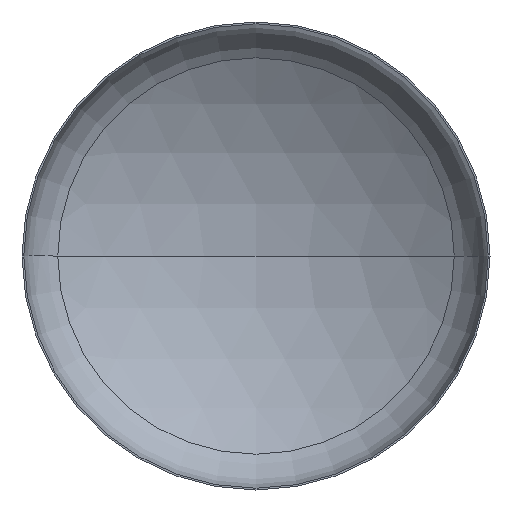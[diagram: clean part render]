
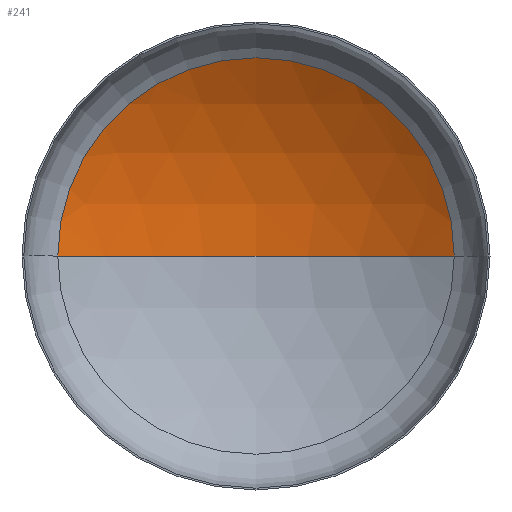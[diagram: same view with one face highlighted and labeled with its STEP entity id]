
A CAD part, front view. The second image highlights one B-rep face of the part: STEP entity #241.
In plain terms, the highlighted spherical face has radius 2880 mm.
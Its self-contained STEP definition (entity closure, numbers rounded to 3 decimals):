
#1 = DIRECTION ( 'NONE',  ( 0., 0., -1. ) ) ;
#23 = EDGE_LOOP ( 'NONE', ( #114, #51, #34 ) ) ;
#31 = AXIS2_PLACEMENT_3D ( 'NONE', #49, #187, #54 ) ;
#34 = ORIENTED_EDGE ( 'NONE', *, *, #125, .T. ) ;
#36 = VERTEX_POINT ( 'NONE', #297 ) ;
#45 = AXIS2_PLACEMENT_3D ( 'NONE', #304, #148, #197 ) ;
#46 = VERTEX_POINT ( 'NONE', #296 ) ;
#47 = AXIS2_PLACEMENT_3D ( 'NONE', #243, #1, #174 ) ;
#49 = CARTESIAN_POINT ( 'NONE',  ( 0., -1927.375, 0. ) ) ;
#51 = ORIENTED_EDGE ( 'NONE', *, *, #138, .T. ) ;
#52 = AXIS2_PLACEMENT_3D ( 'NONE', #215, #212, #214 ) ;
#54 = DIRECTION ( 'NONE',  ( -1., 0., 0. ) ) ;
#71 = CIRCLE ( 'NONE', #52, 1524.852 ) ;
#114 = ORIENTED_EDGE ( 'NONE', *, *, #154, .F. ) ;
#125 = EDGE_CURVE ( 'NONE', #46, #178, #71, .T. ) ;
#138 = EDGE_CURVE ( 'NONE', #36, #46, #318, .T. ) ;
#148 = DIRECTION ( 'NONE',  ( 0., 0., 1. ) ) ;
#154 = EDGE_CURVE ( 'NONE', #36, #178, #368, .T. ) ;
#174 = DIRECTION ( 'NONE',  ( -1., 0., 0. ) ) ;
#178 = VERTEX_POINT ( 'NONE', #208 ) ;
#187 = DIRECTION ( 'NONE',  ( 0., 0., -1. ) ) ;
#197 = DIRECTION ( 'NONE',  ( 1., 0., 0. ) ) ;
#208 = CARTESIAN_POINT ( 'NONE',  ( -1524.852, 515.825, 0. ) ) ;
#212 = DIRECTION ( 'NONE',  ( 0., -1., 0. ) ) ;
#214 = DIRECTION ( 'NONE',  ( 1., 0., 0. ) ) ;
#215 = CARTESIAN_POINT ( 'NONE',  ( 0., 515.825, 0. ) ) ;
#241 = ADVANCED_FACE ( 'NONE', ( #364 ), #309, .F. ) ;
#243 = CARTESIAN_POINT ( 'NONE',  ( 0., -1927.375, 0. ) ) ;
#296 = CARTESIAN_POINT ( 'NONE',  ( 1524.852, 515.825, 0. ) ) ;
#297 = CARTESIAN_POINT ( 'NONE',  ( 0., 952.625, 0. ) ) ;
#304 = CARTESIAN_POINT ( 'NONE',  ( 0., -1927.375, 0. ) ) ;
#309 = SPHERICAL_SURFACE ( 'NONE', #31, 2880. ) ;
#318 = CIRCLE ( 'NONE', #47, 2880. ) ;
#364 = FACE_OUTER_BOUND ( 'NONE', #23, .T. ) ;
#368 = CIRCLE ( 'NONE', #45, 2880. ) ;
